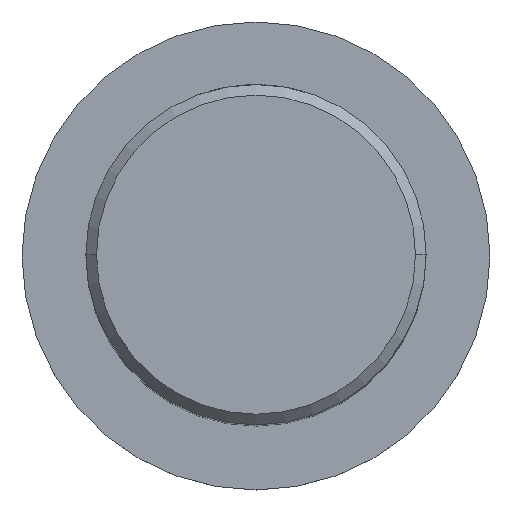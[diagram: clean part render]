
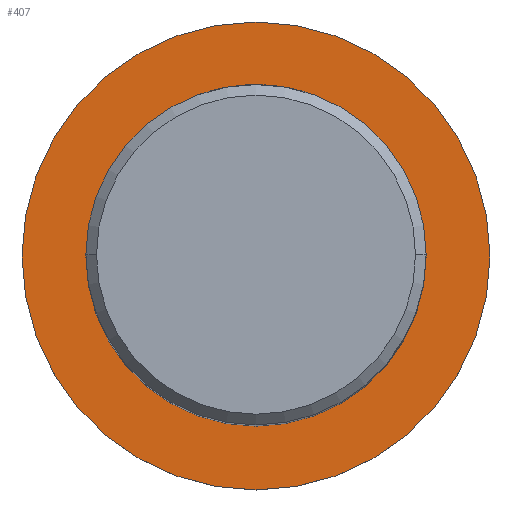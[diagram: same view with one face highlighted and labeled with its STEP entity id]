
A CAD part, top view. The second image highlights one B-rep face of the part: STEP entity #407.
In plain terms, the highlighted planar face has unit normal (0, 0, 1).
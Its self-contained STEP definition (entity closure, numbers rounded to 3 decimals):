
#70=CARTESIAN_POINT('',(0.,-8.,0.));
#71=DIRECTION('',(0.,0.,1.));
#72=DIRECTION('',(1.,0.,0.));
#73=AXIS2_PLACEMENT_3D('',#70,#71,#72);
#118=CARTESIAN_POINT('',(0.,-8.,0.));
#119=DIRECTION('',(0.,0.,1.));
#120=DIRECTION('',(-1.,0.,0.));
#121=AXIS2_PLACEMENT_3D('',#118,#119,#120);
#127=CARTESIAN_POINT('',(0.,-8.,0.));
#128=DIRECTION('',(0.,0.,-1.));
#129=DIRECTION('',(0.,-1.,0.));
#130=AXIS2_PLACEMENT_3D('',#127,#128,#129);
#132=CARTESIAN_POINT('',(0.,-8.,0.));
#133=DIRECTION('',(0.,0.,-1.));
#134=DIRECTION('',(0.,1.,0.));
#135=AXIS2_PLACEMENT_3D('',#132,#133,#134);
#214=CARTESIAN_POINT('',(0.,-19.,0.));
#215=CARTESIAN_POINT('',(0.,3.,0.));
#216=VERTEX_POINT('',#214);
#217=VERTEX_POINT('',#215);
#222=CARTESIAN_POINT('',(8.,-8.,0.));
#223=CARTESIAN_POINT('',(-8.,-8.,0.));
#224=VERTEX_POINT('',#222);
#225=VERTEX_POINT('',#223);
#392=CARTESIAN_POINT('',(0.,0.,0.));
#393=DIRECTION('',(0.,0.,-1.));
#394=DIRECTION('',(0.,-1.,0.));
#395=AXIS2_PLACEMENT_3D('',#392,#393,#394);
#396=PLANE('',#395);
#398=ORIENTED_EDGE('',*,*,#397,.T.);
#400=ORIENTED_EDGE('',*,*,#399,.T.);
#401=EDGE_LOOP('',(#398,#400));
#402=FACE_OUTER_BOUND('',#401,.F.);
#403=ORIENTED_EDGE('',*,*,#294,.T.);
#404=ORIENTED_EDGE('',*,*,#386,.T.);
#405=EDGE_LOOP('',(#403,#404));
#406=FACE_BOUND('',#405,.F.);
#74=CIRCLE('',#73,8.);
#122=CIRCLE('',#121,8.);
#131=CIRCLE('',#130,11.);
#136=CIRCLE('',#135,11.);
#294=EDGE_CURVE('',#224,#225,#74,.T.);
#386=EDGE_CURVE('',#225,#224,#122,.T.);
#397=EDGE_CURVE('',#216,#217,#131,.T.);
#399=EDGE_CURVE('',#217,#216,#136,.T.);
#407=ADVANCED_FACE('',(#402,#406),#396,.F.);
